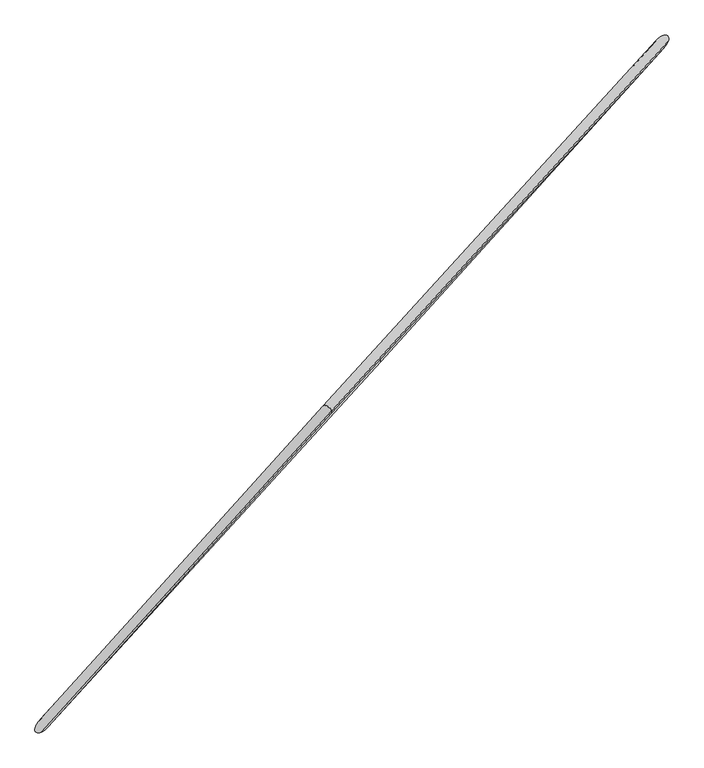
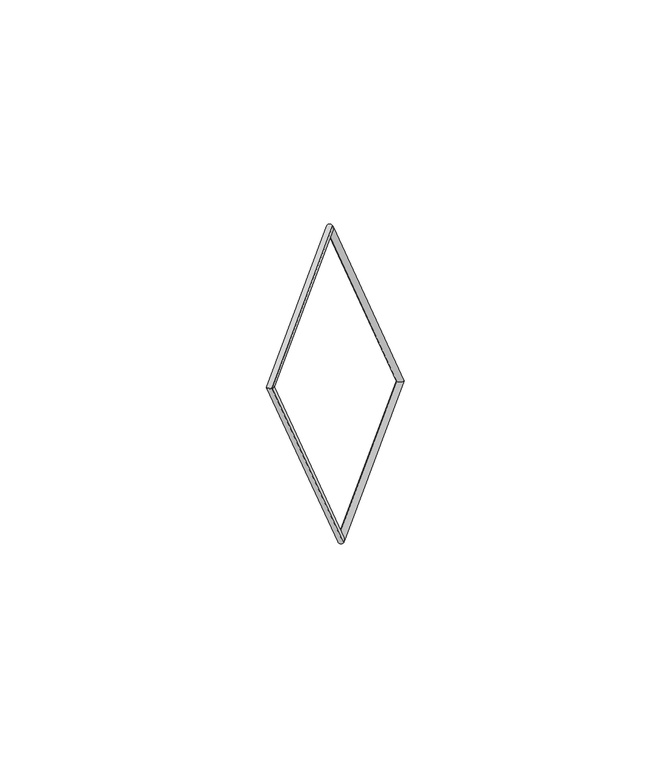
"""IFC4 building model written with IfcOpenShell, lengths in millimetres: proxy geometry, Família5 : Família5."""

from ifc_helpers import new_model, si_unit, frame, origin, place, context, project, spatial, ellipse_curve, source, transform, mapped, element, save
from ifc_brep_helpers import cylinder_surface, advanced_brep


def generic_models_c1897734(model_context):
    return source(origin(), model_context, "Body", "AdvancedBrep", [
        advanced_brep(
        [(-1458.3198061, -1515.5145213, 27.1651628), (-1426.2856272, -1392.4414942, -27.1651628), (611.8033141, 864.0141194, -27.1651628), (672.8021192, 843.9418961, 27.1651628), (3025.545142, 3515.5845256, -4499.9746935), (3144.9844368, 3559.7109963, -4553.9381284), (987.4562006, 1259.1289119, -4499.9746935), (1013.8625114, 1200.2545789, -4553.9381284)],
        [
            (0, 1, ellipse_curve(frame((-1442.3027167, -1453.9780078, 0.0), z_axis=(0.28797313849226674, 0.32301704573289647, 0.9015162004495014), x_axis=(-0.6052771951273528, -0.6681172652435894, 0.432734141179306)), 92.4350591, 40.0)),
            (1, 2),
            (2, 3, ellipse_curve(frame((642.3027167, 853.9780078, 0.0), z_axis=(-0.6052771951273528, -0.6681172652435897, 0.4327341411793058), x_axis=(-0.2879731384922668, -0.3230170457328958, -0.9015162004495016)), 44.369481, 40.0)),
            (3, 0),
            (1, 0, ellipse_curve(frame((-1442.3027167, -1453.9780078, 0.0), z_axis=(0.28797313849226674, 0.32301704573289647, 0.9015162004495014), x_axis=(-0.6052771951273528, -0.6681172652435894, 0.432734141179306)), 92.4350591, 40.0)),
            (3, 2, ellipse_curve(frame((642.3027167, 853.9780078, 0.0), z_axis=(-0.6052771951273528, -0.6681172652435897, 0.4327341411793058), x_axis=(-0.2879731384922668, -0.3230170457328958, -0.9015162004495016)), 44.369481, 40.0)),
            (2, 4),
            (4, 5, ellipse_curve(frame((3085.2647894, 3537.6477609, -4526.9564109), z_axis=(0.2879731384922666, 0.32301704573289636, 0.9015162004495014), x_axis=(-0.6052771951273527, -0.6681172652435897, 0.43273414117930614)), 92.4350591, 40.0)),
            (5, 3),
            (5, 4, ellipse_curve(frame((3085.2647894, 3537.6477609, -4526.9564109), z_axis=(0.2879731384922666, 0.32301704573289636, 0.9015162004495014), x_axis=(-0.6052771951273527, -0.6681172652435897, 0.43273414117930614)), 92.4350591, 40.0)),
            (4, 6),
            (6, 7, ellipse_curve(frame((1000.659356, 1229.6917454, -4526.9564109), z_axis=(0.6052771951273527, 0.6681172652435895, -0.43273414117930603), x_axis=(0.28797313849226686, 0.3230170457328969, 0.9015162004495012)), 44.369481, 40.0)),
            (7, 5),
            (7, 6, ellipse_curve(frame((1000.659356, 1229.6917454, -4526.9564109), z_axis=(0.6052771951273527, 0.6681172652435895, -0.43273414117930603), x_axis=(0.28797313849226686, 0.3230170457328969, 0.9015162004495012)), 44.369481, 40.0)),
            (6, 1),
            (0, 7),
        ],
        [
            cylinder_surface(frame((-1442.3027167, -1453.9780078, 0.0), z_axis=(-0.6702862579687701, -0.7421026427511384, 0.0), x_axis=(-0.5039834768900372, 0.4552108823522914, 0.7340188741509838)), 40.0),
            cylinder_surface(frame((642.3027167, 853.9780078, 0.0), z_axis=(-0.42105343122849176, -0.4625402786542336, 0.7802374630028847), x_axis=(-0.11836079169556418, 0.8808690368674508, 0.4583235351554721)), 40.0),
            cylinder_surface(frame((3085.2647894, 3537.6477609, -4526.9564109), z_axis=(0.6702862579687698, 0.7421026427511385, 0.0), x_axis=(-0.5005800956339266, 0.45213686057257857, -0.7382356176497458)), 40.0),
            cylinder_surface(frame((1000.659356, 1229.6917454, -4526.9564109), z_axis=(0.4210534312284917, 0.46254027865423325, -0.7802374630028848), x_axis=(-0.8862027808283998, 0.02647870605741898, -0.46254027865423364)), 40.0),
        ],
        [
            (0, [[1, 2, 3, 4]]),
            (0, [[5, -4, 6, -2]]),
            (1, [[-3, 7, 8, 9]]),
            (1, [[-6, -9, 10, -7]]),
            (2, [[-8, 11, 12, 13]]),
            (2, [[-10, -13, 14, -11]]),
            (3, [[-12, 15, -1, 16]]),
            (3, [[-14, -16, -5, -15]]),
        ],
    ),
    ])


if __name__ == "__main__":
    model = new_model("IFC4")
    model_context = context("Model", 3, world=origin())
    ifc_project = project(units=[si_unit("LENGTHUNIT", "METRE", prefix="MILLI")], contexts=[model_context])
    site = spatial("IfcSite", under=ifc_project)
    building = spatial("IfcBuilding", under=site)
    placement = place(None, origin())
    generic_models_shape = generic_models_c1897734(model_context)
    element("IfcBuildingElementProxy", 1, Name="Família5 : Família5", ObjectType="Família5 : Família5", at=placement, inside=building, context=model_context, shape_type="MappedRepresentation", body=[
        mapped(generic_models_shape, transform((0.0, 0.0, 0.0), x_axis=(1.0, 0.0, 0.0), y_axis=(0.0, 1.0, 0.0), z_axis=(0.0, 0.0, 1.0))),
    ])
    save(model, "model.ifc")
